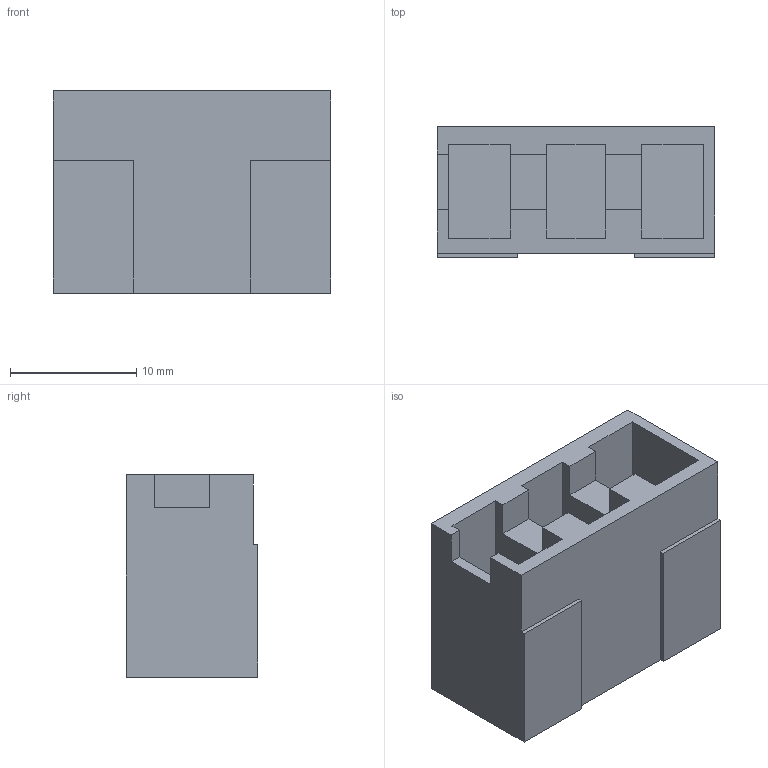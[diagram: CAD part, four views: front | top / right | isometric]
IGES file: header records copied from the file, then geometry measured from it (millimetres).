
Start section:  PTC IGES file: j5-cnp3.igs
Global section: file name: j5-cnp3.igs; native system: Creo Parametric by PTC Inc.; preprocessor: 2017480; author: BP68092; organization: Unknown; date: 20190225.135507; units: millimetre
Bounding box: 22 x 10.37 x 16 mm (x, y, z)
Volume: 2329.5 mm3; surface area: 2255.6 mm2
Topology: 1 solids, 1 shells, 36 faces, 102 edges, 68 vertices
Faces by surface type: bspline 36
